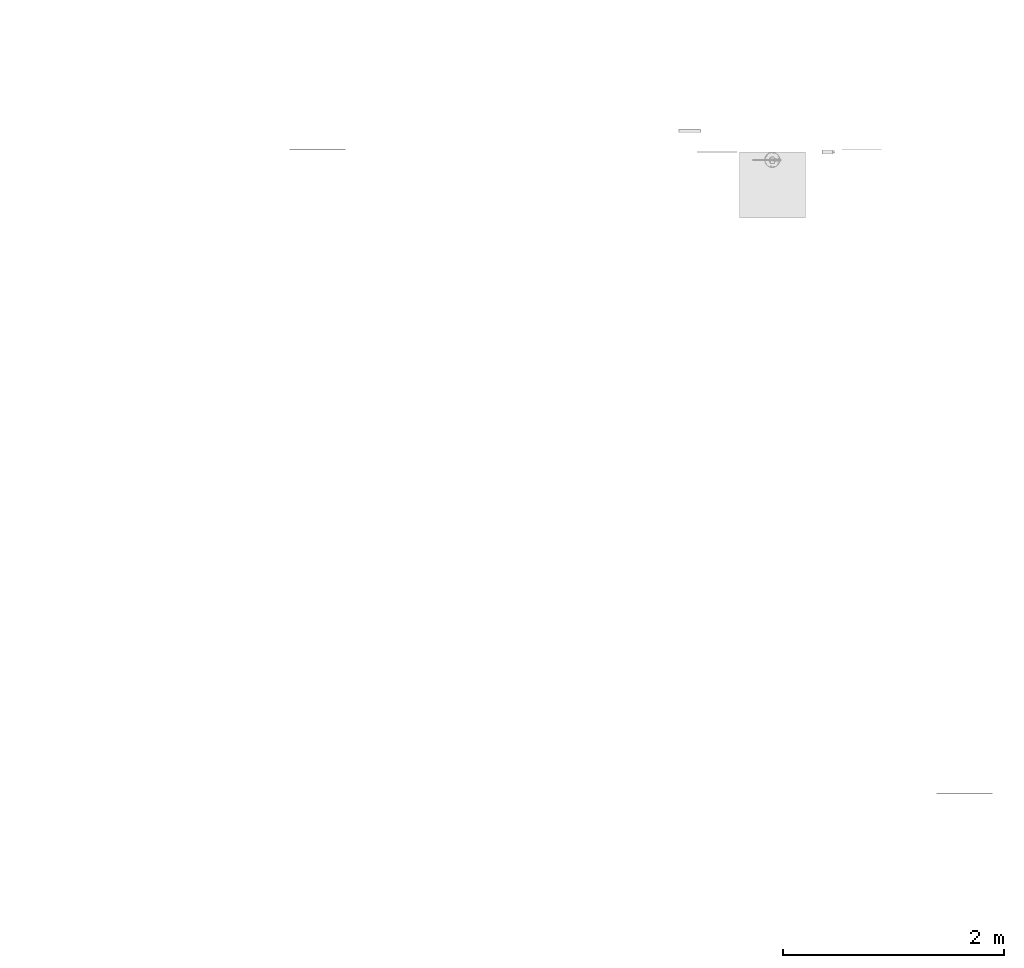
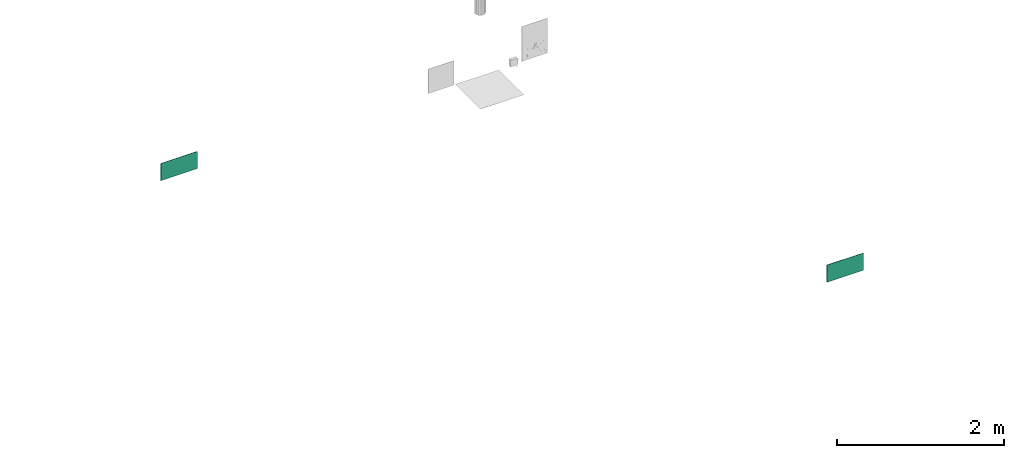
# One storey, part 7 of 9: 2 flow terminals.
"""IFC2X3 building model written with IfcOpenShell, lengths in metres."""

from ifc_helpers import new_model, entity, si_unit, converted_unit, derived_unit, direction, frame, frame_2d, origin, place, context, subcontext, project, spatial, polyline, circle_curve, parameter, trimmed, segment, composite_curve, circle, outline, extrude, source, transform, mapped, material, material_list, type_object, type_shapes, element, save


model = new_model("IFC2X3")

# Units and contexts
model_context = context("Model", 3, precision=1e-05, world=origin(), true_north=direction((6.12303176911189e-17, 1.0)))
body_context = subcontext(model_context, "Body", "Model", "MODEL_VIEW")
ifc_project = project(units=[si_unit("LENGTHUNIT", "METRE"), si_unit("AREAUNIT", "SQUARE_METRE"), si_unit("VOLUMEUNIT", "CUBIC_METRE"), converted_unit("PLANEANGLEUNIT", "DEGREE", entity("IfcRatioMeasure", 0.0174532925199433), si_unit("PLANEANGLEUNIT", "RADIAN"), dimensions=[0, 0, 0, 0, 0, 0, 0]), si_unit("MASSUNIT", "GRAM", prefix="KILO"), derived_unit("MASSDENSITYUNIT", [(si_unit("MASSUNIT", "GRAM", prefix="KILO"), 1), (si_unit("LENGTHUNIT", "METRE"), -3)]), derived_unit("MOMENTOFINERTIAUNIT", [(si_unit("LENGTHUNIT", "METRE"), 4)]), si_unit("TIMEUNIT", "SECOND"), si_unit("FREQUENCYUNIT", "HERTZ"), si_unit("THERMODYNAMICTEMPERATUREUNIT", "DEGREE_CELSIUS"), derived_unit("THERMALTRANSMITTANCEUNIT", [(si_unit("MASSUNIT", "GRAM", prefix="KILO"), 1), (si_unit("THERMODYNAMICTEMPERATUREUNIT", "KELVIN"), -1), (si_unit("TIMEUNIT", "SECOND"), -3)]), derived_unit("VOLUMETRICFLOWRATEUNIT", [(si_unit("LENGTHUNIT", "METRE"), 3), (si_unit("TIMEUNIT", "SECOND"), -1)]), si_unit("ELECTRICCURRENTUNIT", "AMPERE"), si_unit("ELECTRICVOLTAGEUNIT", "VOLT"), si_unit("POWERUNIT", "WATT"), si_unit("FORCEUNIT", "NEWTON", prefix="KILO"), si_unit("ILLUMINANCEUNIT", "LUX"), si_unit("LUMINOUSFLUXUNIT", "LUMEN"), si_unit("LUMINOUSINTENSITYUNIT", "CANDELA"), derived_unit("USERDEFINED", [(si_unit("MASSUNIT", "GRAM", prefix="KILO"), -1), (si_unit("LENGTHUNIT", "METRE"), -2), (si_unit("TIMEUNIT", "SECOND"), 3), (si_unit("LUMINOUSFLUXUNIT", "LUMEN"), 1)]), derived_unit("LINEARVELOCITYUNIT", [(si_unit("LENGTHUNIT", "METRE"), 1), (si_unit("TIMEUNIT", "SECOND"), -1)]), si_unit("PRESSUREUNIT", "PASCAL"), derived_unit("USERDEFINED", [(si_unit("LENGTHUNIT", "METRE"), -2), (si_unit("MASSUNIT", "GRAM", prefix="KILO"), 1), (si_unit("TIMEUNIT", "SECOND"), -2)]), derived_unit("LINEARFORCEUNIT", [(si_unit("MASSUNIT", "GRAM", prefix="KILO"), 1), (si_unit("LENGTHUNIT", "METRE"), 1), (si_unit("TIMEUNIT", "SECOND"), -2), (si_unit("LENGTHUNIT", "METRE"), -1)]), derived_unit("PLANARFORCEUNIT", [(si_unit("MASSUNIT", "GRAM", prefix="KILO"), 1), (si_unit("LENGTHUNIT", "METRE"), 1), (si_unit("TIMEUNIT", "SECOND"), -2), (si_unit("LENGTHUNIT", "METRE"), -2)])], contexts=[model_context])

# Site, building, storey
site_placement = place(None, origin())
site = spatial("IfcSite", under=ifc_project, at=site_placement, Name="Default", CompositionType="ELEMENT")
building_placement = place(site_placement, origin())
building = spatial("IfcBuilding", under=site, at=building_placement, Name="C.L. MONSENHOR ANTÔNIO SAMPAIO", CompositionType="ELEMENT")
storey_placement = place(building_placement, origin())
storey = spatial("IfcBuildingStorey", under=building, at=storey_placement, Name="TÉRREO", CompositionType="ELEMENT", Elevation=0.0)

# Flow terminals
ifc_material_1 = material(Name="Branco")
ifc_material_2 = material(Name="VERDE")
ifc_material_list_1 = material_list([ifc_material_1, ifc_material_2])
distribution_element_type = type_object("IfcDistributionElementType", Name="S1:10 metros", material=ifc_material_1)
shared_shape = source(origin(), body_context, "Body", "SweptSolid", [
    extrude(outline(polyline([(-0.0610696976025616, -0.12748118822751), (0.0766837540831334, -0.12748118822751), (0.0766837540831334, -0.0524811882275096), (0.0586375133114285, -0.0524811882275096), (0.0425748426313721, -0.0754210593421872), (0.024448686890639, -0.0838734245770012), (-0.030551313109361, -0.0838734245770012), (-0.0557149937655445, -0.0465667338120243), (-0.0451083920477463, -0.0359601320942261), (-0.0255366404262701, -0.0649764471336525), (-0.00553664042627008, -0.0649764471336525), (-0.022441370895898, -0.0287241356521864), (-0.0261438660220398, 0.0135955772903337), (-0.0637906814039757, 0.0155685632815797), (-0.0825671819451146, 0.0343450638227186), (-0.0176067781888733, 0.0366135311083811), (-0.00700017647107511, 0.0260069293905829), (-0.00282498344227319, -0.00370111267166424), (0.0027606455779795, -0.00109649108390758), (0.036959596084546, 0.0690217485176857), (0.0633954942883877, 0.0690217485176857), (0.0195583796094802, -0.0208576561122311), (0.0195583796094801, -0.0294894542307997), (0.0348026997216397, -0.0512605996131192), (0.0552626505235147, -0.0293199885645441), (0.0766837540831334, -0.0293199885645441), (0.0766837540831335, 0.0706800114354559), (0.0625416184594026, 0.0848221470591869), (0.0462279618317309, 0.0848221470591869), (0.0572287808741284, 0.0717118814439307), (0.0310842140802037, 0.0717118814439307), (0.0179739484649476, 0.0848221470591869), (-0.0744479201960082, 0.0848221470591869), (-0.0595850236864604, 0.0714395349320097), (-0.0595850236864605, 0.0393589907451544), (-0.0895850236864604, 0.0393589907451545), (-0.0895850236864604, 0.0340999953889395), (-0.0610696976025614, 0.00751881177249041), (-0.0610696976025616, -0.12748118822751)]), holes=[composite_curve([segment(trimmed(circle_curve(frame_2d((0.03240990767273, -0.103271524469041), x_axis=(1.0, 0.0)), 0.0177066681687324), [parameter(3.05333249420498e-13)], [parameter(180.0)], True, "PARAMETER"), False, "CONTINUOUS"), segment(trimmed(circle_curve(frame_2d((0.03240990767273, -0.103271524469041), x_axis=(1.0, 0.0)), 0.0177066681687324), [parameter(180.0)], [parameter(360.0)], True, "PARAMETER"), False, "CONTINUOUS")], self_intersect=False)]), frame((-0.135804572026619, -0.005, 0.100036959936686), z_axis=(0.0, 1.0, 0.0), x_axis=(1.0, 0.0, 0.0)), (0.0, 0.0, 1.0), 0.005),
    extrude(outline(polyline([(-0.0893393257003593, 0.0156689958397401), (-0.0893393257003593, -0.0156689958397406), (0.0256606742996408, -0.0156689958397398), (-0.0132301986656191, -0.0545598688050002), (0.0317698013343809, -0.0545598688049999), (0.0902780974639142, 0.0), (0.0317698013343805, 0.0545598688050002), (-0.0132301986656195, 0.0545598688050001), (0.0256606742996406, 0.0156689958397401), (-0.0893393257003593, 0.0156689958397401)])), frame((0.12865825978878, -0.005, 0.12724469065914), z_axis=(0.0, -1.0, 0.0), x_axis=(1.0, 0.0, 0.0)), (0.0, 0.0, -1.0), 0.005),
    extrude(outline(polyline([(-0.252999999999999, -0.126499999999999), (0.253, -0.126499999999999), (0.253, 0.126499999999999), (-0.253, 0.126499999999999), (-0.252999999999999, -0.126499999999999)]), holes=[polyline([(-0.154318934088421, 0.0164136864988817), (-0.0393189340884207, 0.0164136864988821), (-0.0393189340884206, -0.0149243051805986), (-0.154318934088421, -0.0149243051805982), (-0.115428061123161, -0.0538151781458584), (-0.160428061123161, -0.0538151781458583), (-0.218936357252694, 0.000744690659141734), (-0.160428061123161, 0.0553045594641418), (-0.115428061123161, 0.0553045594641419), (-0.154318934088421, 0.0164136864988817)]), polyline([(0.19687426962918, 0.101018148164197), (0.19687426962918, -0.0339818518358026), (0.225389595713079, -0.0605630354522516), (0.225389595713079, -0.0658220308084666), (0.195389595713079, -0.0658220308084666), (0.195389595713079, -0.0979025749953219), (0.210252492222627, -0.111285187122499), (0.117830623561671, -0.111285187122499), (0.104720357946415, -0.0981749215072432), (0.0785757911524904, -0.0981749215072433), (0.0895766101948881, -0.111285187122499), (0.0732629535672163, -0.111285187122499), (0.0591208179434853, -0.0971430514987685), (0.0591208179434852, 0.00285694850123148), (0.0805419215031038, 0.00285694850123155), (0.101001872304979, 0.0247975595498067), (0.116246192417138, 0.00302641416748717), (0.116246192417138, -0.00560538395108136), (0.0724090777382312, -0.0954847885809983), (0.098844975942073, -0.0954847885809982), (0.133043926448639, -0.0253665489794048), (0.138629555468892, -0.0227619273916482), (0.142804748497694, -0.0524699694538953), (0.153411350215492, -0.0630765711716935), (0.218371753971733, -0.0608081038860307), (0.199595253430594, -0.0420316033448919), (0.161948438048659, -0.040058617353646), (0.158245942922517, 0.00226109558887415), (0.141341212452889, 0.0385134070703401), (0.161341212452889, 0.0385134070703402), (0.180912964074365, 0.00949709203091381), (0.191519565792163, 0.0201036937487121), (0.166355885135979, 0.0574103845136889), (0.111355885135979, 0.0574103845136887), (0.0932297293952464, 0.0489580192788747), (0.07716705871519, 0.026018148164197), (0.0591208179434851, 0.026018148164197), (0.0591208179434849, 0.101018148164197), (0.19687426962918, 0.101018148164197)])]), frame((0.0, -0.005, 0.126499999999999), z_axis=(0.0, 1.0, 0.0), x_axis=(-1.0, 0.0, 0.0)), (0.0, 0.0, 1.0), 0.005),
    extrude(circle(Radius=0.0177066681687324, at=frame_2d((0.0, -1.01518793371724e-16), x_axis=(1.0, 0.0))), frame((-0.103394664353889, -0.005, 0.203308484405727), z_axis=(0.0, 1.0, 0.0), x_axis=(1.0, 0.0, 0.0)), (0.0, 0.0, 1.0), 0.005),
])
type_shapes(distribution_element_type, [shared_shape])
flow_terminal_1_placement = place(building_placement, frame((7.51128840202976, -22.7362384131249, 0.0)))
element("IfcFlowTerminal", 1, at=flow_terminal_1_placement, inside=storey, type_object=distribution_element_type, material=ifc_material_list_1, Name="S1:10 metros", ObjectType="S1:10 metros", context=body_context, shape_type="MappedRepresentation", body=[
    mapped(shared_shape, transform((0.0, 0.0, 0.0), scale=1.0)),
])
ifc_material_list_2 = material_list([ifc_material_1, ifc_material_2])
flow_terminal_2_placement = place(building_placement, frame((1.65016425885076, -16.9030663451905, 0.0), z_axis=(0.0, 0.0, 1.0), x_axis=(-1.0, 0.0, 0.0)))
element("IfcFlowTerminal", 2, at=flow_terminal_2_placement, inside=storey, type_object=distribution_element_type, material=ifc_material_list_2, Name="S1:10 metros", ObjectType="S1:10 metros", context=body_context, shape_type="MappedRepresentation", body=[
    mapped(shared_shape, transform((0.0, 0.0, 0.0), scale=1.0)),
])

save(model, "model.ifc")
